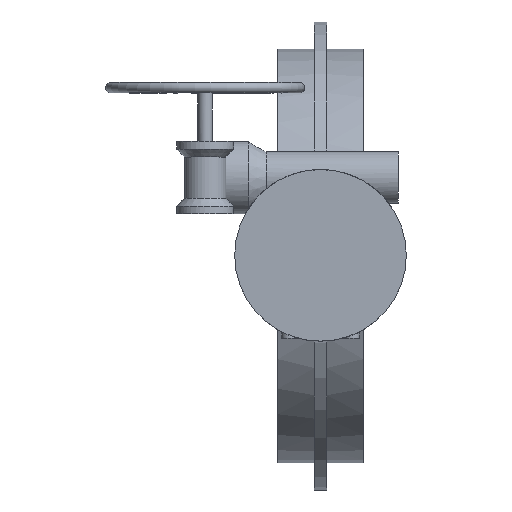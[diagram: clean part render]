
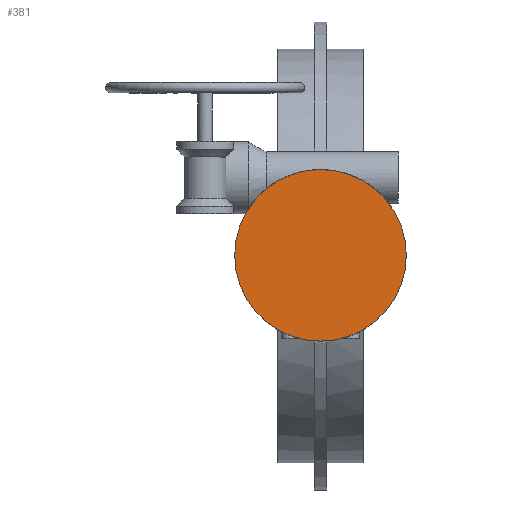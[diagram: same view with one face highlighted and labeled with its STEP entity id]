
A CAD part, top view. The second image highlights one B-rep face of the part: STEP entity #381.
In plain terms, the highlighted planar face has unit normal (0, 0, 1).
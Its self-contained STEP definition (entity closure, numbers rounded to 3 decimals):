
#381=ADVANCED_FACE('',(#6588),#6590,.T.);
#6588=FACE_BOUND('',#6589,.T.);
#6589=EDGE_LOOP('',(#11478));
#6590=PLANE('',#6591);
#6591=AXIS2_PLACEMENT_3D('',#6592,#6593,#6594);
#6592=CARTESIAN_POINT('',(0.,0.,771.));
#6593=DIRECTION('',(0.,0.,1.));
#6594=DIRECTION('',(0.,-1.,0.));
#11478=ORIENTED_EDGE('',*,*,#15150,.T.);
#15150=EDGE_CURVE('',#17046,#17046,#17047,.T.);
#17046=VERTEX_POINT('',#20292);
#17047=CIRCLE('',#20293,166.);
#20292=CARTESIAN_POINT('',(0.,-166.,771.));
#20293=AXIS2_PLACEMENT_3D('',#20294,#20295,#20296);
#20294=CARTESIAN_POINT('',(0.,0.,771.));
#20295=DIRECTION('',(0.,0.,1.));
#20296=DIRECTION('',(0.,-1.,0.));
